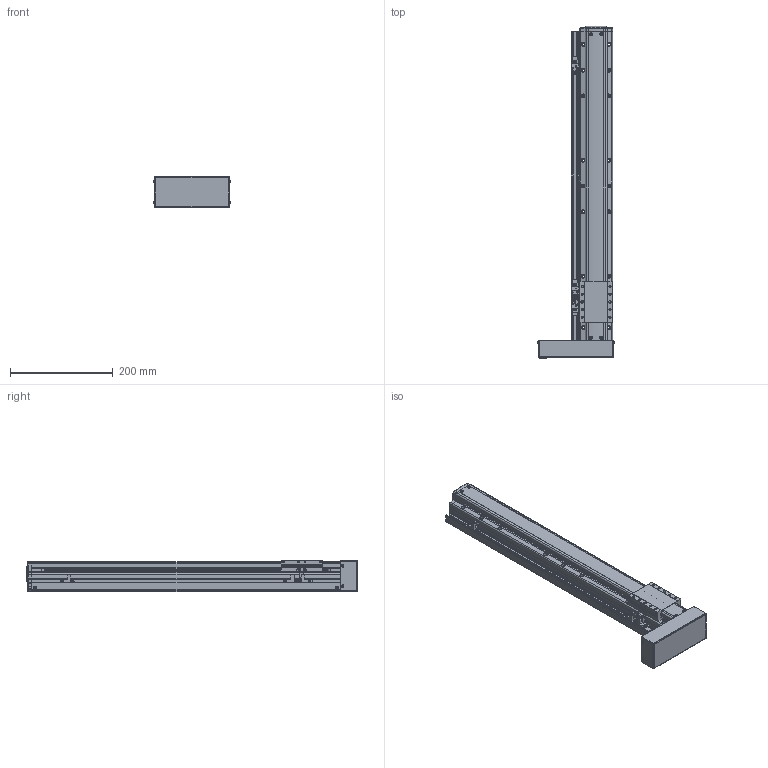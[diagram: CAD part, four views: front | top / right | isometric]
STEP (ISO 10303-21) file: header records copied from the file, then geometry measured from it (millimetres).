
FILE_DESCRIPTION(('STEP AP214'),'1');
FILE_NAME('Z:/Web/3D/PSA65/STP/PSA65-450 (3D)/PSA65ㅁㅁ-450PL+3SL.stp','2014-06-25T04:55:48',(' '),(' '),'Spatial InterOp 3D',' ',' ');
FILE_SCHEMA(('automotive_design'));
Length unit declared in the file: millimetre
Products named in the file (67): SLIDE; RRCV-PA060; 1; 2; 3; 4; 5; 6; 7; 8; 9; 10; 11; 12; 13; 14; 15; 16; 17; 18; 19; 20; 21; 22; 23; 24; 25; 26; 27; 28; 29; 30; 31; 스크루 : Round - M3.0 x 8.0; RN8 x 0.75; SHAFT-SAN65; BASE; 스크루 : Round - M3.0 x 6.0; BTCV-SAN65; BHCS M3 X 6L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
Bounding box: 149.13 x 644.8 x 62 mm (x, y, z)
Volume: 2224859.5 mm3; surface area: 361522.5 mm2
Topology: 67 solids, 67 shells, 2264 faces, 5967 edges, 3832 vertices
Faces by surface type: plane 1391, cylinder 589, cone 199, sphere 50, bspline 19, torus 16
Entity records: 89618 total; most frequent: CARTESIAN_POINT 13739, DIRECTION 12014, ORIENTED_EDGE 11682, EDGE_CURVE 5841, LINE 4120, VECTOR 4120, AXIS2_PLACEMENT_3D 3947, VERTEX_POINT 3832
